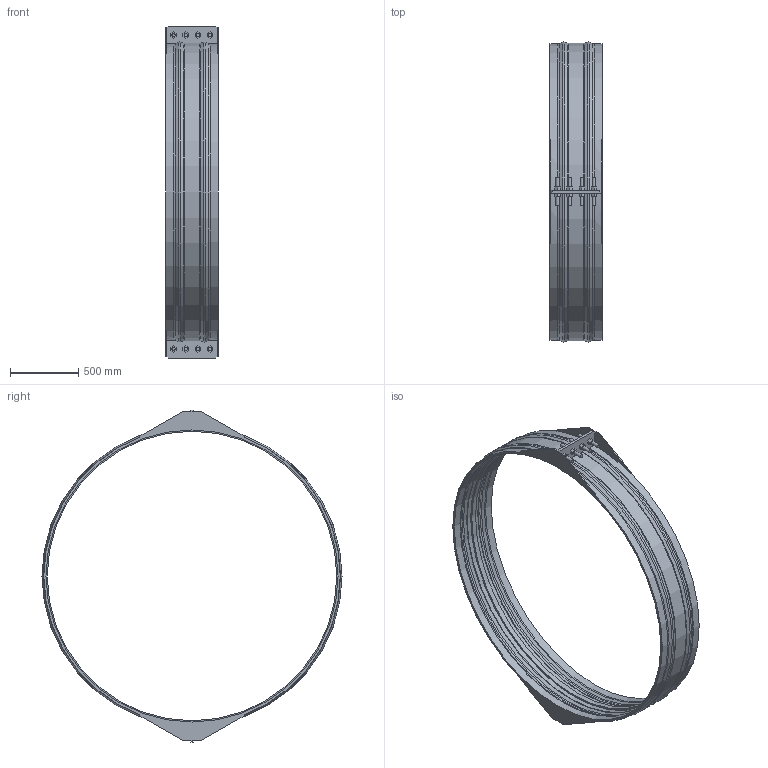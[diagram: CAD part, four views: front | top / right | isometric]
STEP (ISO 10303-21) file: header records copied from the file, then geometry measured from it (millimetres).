
FILE_DESCRIPTION(/* description */ ('VIC RESTRAINED COUPLING STYLE 233 (FLEX) (BRD)','CAx-IF Rec.Pracs.---Representation and Presentation of Product Manufacturing Information (PMI)---4.0---2014-10-13'),/* implementation_level */ '2;1');
FILE_NAME(/* name */ 'C:\Users\Vjadhav\Desktop\CAD for Inventor\Test for STEP\Vivek\Adsk_Inventor_Bolted Sleeve_iParts\STEP\Victaulic_VBSP_Coupling Flexible Restrained_Style 233 (BRD)\Victaulic_VBSP_Coupling Flexible Restrained_Style 233 (BRD)_175psi_84 (2100).stp',/* time_stamp */ '2020-09-24T12:31:24+05:00',/* author */ ('Vjadhav'),/* organization */ ('Victaulic'),/* preprocessor_version */ 'ST-DEVELOPER v17.2',/* originating_system */ 'Autodesk Inventor 2019',/* authorisation */ '');
FILE_SCHEMA (('AP242_MANAGED_MODEL_BASED_3D_ENGINEERING_MIM_LF { 1 0 10303 442 1 1 4 }'));
Length unit declared in the file: inch
Products named in the file (1): Style_233_Type_2_175psi-84.0
Bounding box: 381 x 2192.04 x 2425.7 mm (x, y, z)
Volume: 48815082.1 mm3; surface area: 6390095.7 mm2
Topology: 1 solids, 1 shells, 239 faces, 625 edges, 422 vertices
Faces by surface type: plane 166, cylinder 43, torus 18, cone 12
Full cylindrical faces by diameter (mm): 25.4 x16, 2114.55 x1, 2133.6 x2, 2139.95 x2
Entity records: 7896 total; most frequent: CARTESIAN_POINT 1496, DIRECTION 1259, ORIENTED_EDGE 1250, EDGE_CURVE 625, LINE 449, VECTOR 449, VERTEX_POINT 422, AXIS2_PLACEMENT_3D 405
